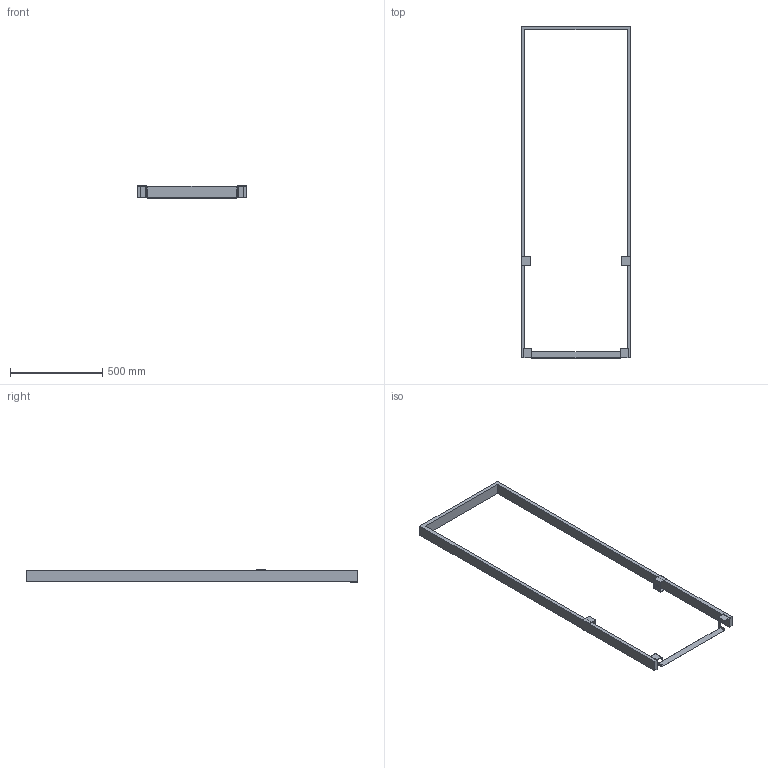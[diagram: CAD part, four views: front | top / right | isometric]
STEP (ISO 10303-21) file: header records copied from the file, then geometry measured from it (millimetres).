
FILE_DESCRIPTION((''),'2;1');
FILE_NAME('52332476','2024-12-18T13:16:30',('wep'),('HUBER SE'),'CREO PARAMETRIC BY PTC INC, 2022162','CREO PARAMETRIC BY PTC INC, 2022162','');
FILE_SCHEMA(('AUTOMOTIVE_DESIGN { 1 0 10303 214 1 1 1 1 }'));
Length unit declared in the file: millimetre
Products named in the file (1): 52332476
Bounding box: 594 x 1800 x 65.5 mm (x, y, z)
Volume: 5065834 mm3; surface area: 752167.1 mm2
Topology: 3 solids, 3 shells, 58 faces, 160 edges, 106 vertices
Faces by surface type: plane 52, cylinder 6
Entity records: 2341 total; most frequent: CARTESIAN_POINT 326, ORIENTED_EDGE 320, DIRECTION 288, EDGE_CURVE 160, VECTOR 148, LINE 148, VERTEX_POINT 106, COLOUR_RGB 106
